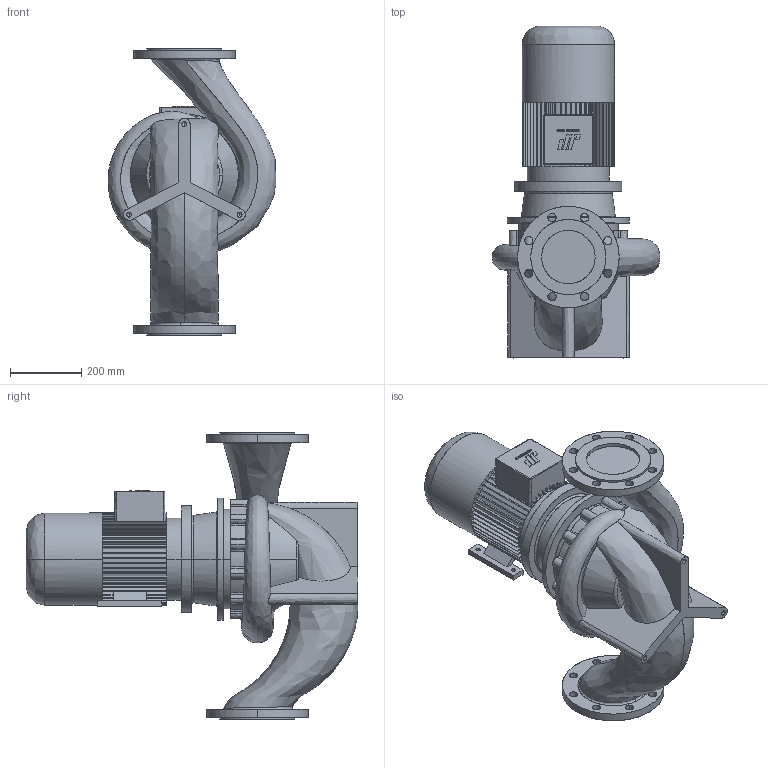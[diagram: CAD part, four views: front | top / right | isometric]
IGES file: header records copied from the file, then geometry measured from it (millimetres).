
Start section: CombiLine
Global section: file name: CLB_125A-250_IEC132S_ND10.igs; native system:  By UGS Corp.; preprocessor: XPlus GENERIC/IGES 3.0; author: Stageplaats; organization: Johnson Pump Water B.V.; date: 20070718.095747; units: millimetre
Bounding box: 471.37 x 931.5 x 805 mm (x, y, z)
Surface area: 2142623.5 mm2 (no closed solid volume)
Topology: 0 solids, 0 shells, 622 faces, 3798 edges, 3792 vertices
Faces by surface type: bspline 622
